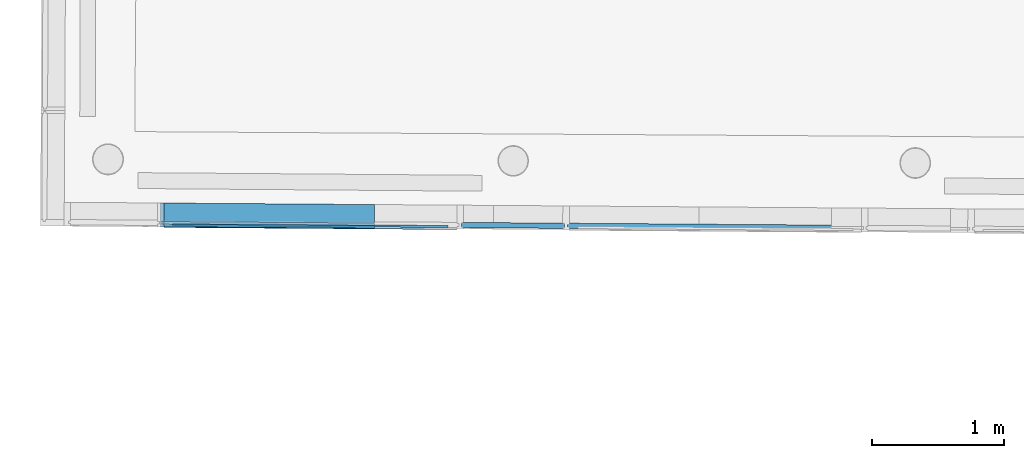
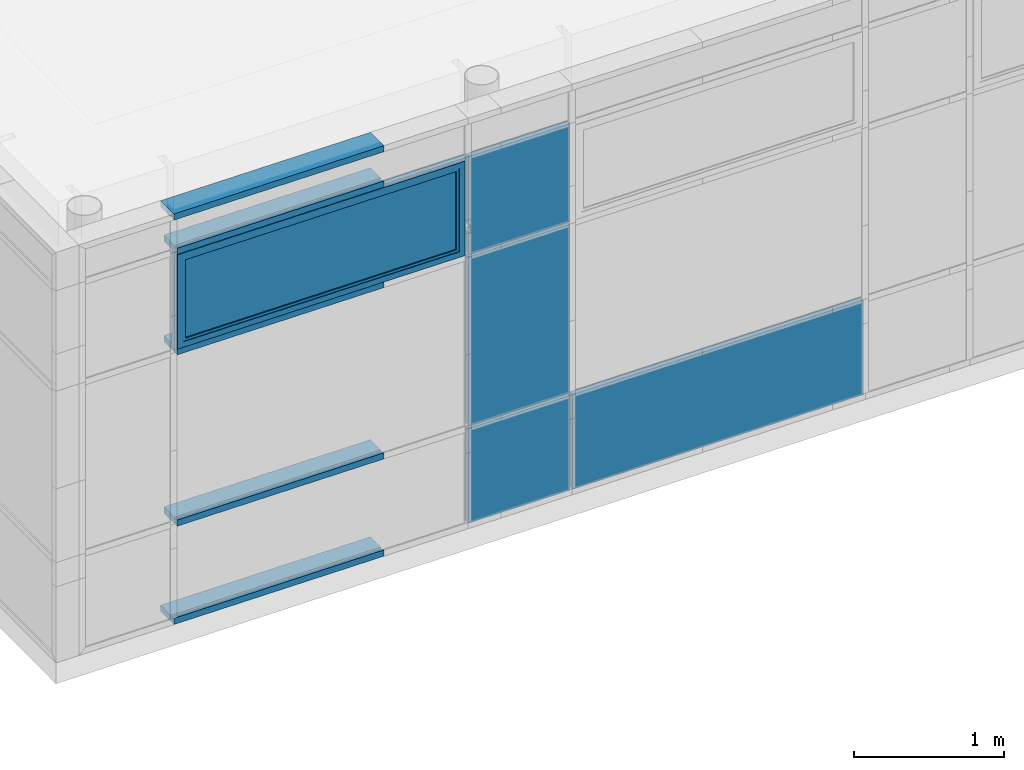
# One storey, part 140 of 196: 11 building element parts, 1 element without a shape of its own.
"""IFC2X3 building model written with IfcOpenShell, lengths in metres."""

from ifc_helpers import new_model, entity, si_unit, converted_unit, derived_unit, money_unit, direction, frame, origin_with_axes, place, context, subcontext, project, spatial, faceted_brep, material, type_object, element, aggregate, save


model = new_model("IFC2X3")

# Units and contexts
model_context = context("Model", 3, precision=1e-05, world=origin_with_axes(), true_north=direction((0.0, 1.0)))
body_context = subcontext(model_context, "Body", "Model", "MODEL_VIEW")
ifc_project = project(units=[si_unit("LENGTHUNIT", "METRE"), si_unit("AREAUNIT", "SQUARE_METRE"), si_unit("VOLUMEUNIT", "CUBIC_METRE"), converted_unit("PLANEANGLEUNIT", "DEGREE", entity("IfcPlaneAngleMeasure", 0.0174532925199), si_unit("PLANEANGLEUNIT", "RADIAN"), dimensions=[0, 0, 0, 0, 0, 0, 0]), money_unit("EUR"), converted_unit("TIMEUNIT", "Year", entity("IfcTimeMeasure", 31556926.0), si_unit("TIMEUNIT", "SECOND"), dimensions=[0, 0, 1, 0, 0, 0, 0]), si_unit("MASSUNIT", "GRAM", prefix="KILO"), si_unit("THERMODYNAMICTEMPERATUREUNIT", "DEGREE_CELSIUS"), si_unit("LUMINOUSINTENSITYUNIT", "LUMEN"), si_unit("ENERGYUNIT", "JOULE", prefix="MEGA"), derived_unit("THERMALCONDUCTANCEUNIT", [(si_unit("POWERUNIT", "WATT"), 1), (si_unit("LENGTHUNIT", "METRE"), -1), (si_unit("THERMODYNAMICTEMPERATUREUNIT", "KELVIN"), -1)]), derived_unit("SPECIFICHEATCAPACITYUNIT", [(si_unit("ENERGYUNIT", "JOULE"), 1), (si_unit("MASSUNIT", "GRAM", prefix="KILO"), -1), (si_unit("THERMODYNAMICTEMPERATUREUNIT", "KELVIN"), -1)]), derived_unit("MASSDENSITYUNIT", [(si_unit("MASSUNIT", "GRAM", prefix="KILO"), 1), (si_unit("VOLUMEUNIT", "CUBIC_METRE"), -1)])], contexts=[model_context])

# Site, building, storey
site_placement = place(None, origin_with_axes())
site = spatial("IfcSite", under=ifc_project, at=site_placement, Name="Gelände", CompositionType="ELEMENT")
building_placement = place(site_placement, origin_with_axes())
building = spatial("IfcBuilding", under=site, at=building_placement, Name="Gebäude", CompositionType="ELEMENT")
storey_placement = place(building_placement, frame((0.0, 0.0, -3.0), z_axis=(0.0, 0.0, 1.0), x_axis=(1.0, 0.0, 0.0)))
storey = spatial("IfcBuildingStorey", under=building, at=storey_placement, Name="KELLERGESCHOSS", CompositionType="ELEMENT", Elevation=-3.0)

# Proxy, building element parts
building_element_proxy_type = type_object("IfcBuildingElementProxyType", Name="Fassadentyp", PredefinedType="NOTDEFINED")
proxy_placement = place(storey_placement, frame((2.54090824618, 35.7894672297, 0.610000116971), z_axis=(0.0, 0.0, 1.0), x_axis=(1.0, 0.0, 0.0)))
proxy = element("IfcBuildingElementProxy", 1, at=proxy_placement, inside=storey, type_object=building_element_proxy_type, Name="Fassade-002")
ifc_material_1 = material(Name="45_Glas, Normalglas")
building_element_part_1_placement = place(proxy_placement, origin_with_axes())
building_element_part_1 = element("IfcBuildingElementPart", 2, at=building_element_part_1_placement, material=ifc_material_1, Name="45_Glas, Normalglas", context=body_context, shape_type="Brep", body=[
    faceted_brep([(0.426614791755, 0.0169092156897, 0.808463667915), (-0.110571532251, 0.0208017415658, 0.808463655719), (-0.110861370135, -0.0191972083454, 0.808463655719), (0.426324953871, -0.0230897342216, 0.808463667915), (0.426614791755, 0.0169092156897, 0.619999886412), (0.426614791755, 0.0169092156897, 0.0349998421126), (-0.110571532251, 0.0208017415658, 0.0349998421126), (-0.352513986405, 0.0225548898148, 0.0349998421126), (-0.352513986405, 0.0225548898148, 0.619999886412), (-0.352513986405, 0.0225548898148, 0.808463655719), (-0.352803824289, -0.0174440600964, 0.808463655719), (-0.352803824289, -0.0174440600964, 0.619999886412), (-0.352803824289, -0.0174440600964, 0.0349998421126), (-0.110861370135, -0.0191972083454, 0.0349998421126), (0.426324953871, -0.0230897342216, 0.0349998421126), (0.426324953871, -0.0230897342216, 0.619999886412)], [[[0, 1, 2, 3]], [[0, 4, 5, 6, 7, 8, 9, 1]], [[1, 9, 10, 2]], [[3, 2, 10, 11, 12, 13, 14, 15]], [[4, 0, 3, 15]], [[5, 4, 15, 14]], [[6, 5, 14, 13]], [[7, 6, 13, 12]], [[8, 7, 12, 11]], [[9, 8, 11, 10]]]),
])
building_element_part_2_placement = place(proxy_placement, origin_with_axes())
building_element_part_2 = element("IfcBuildingElementPart", 3, at=building_element_part_2_placement, material=ifc_material_1, Name="45_Glas, Normalglas", context=body_context, shape_type="Brep", body=[
    faceted_brep([(2.68229939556, 0.000564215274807, 0.808463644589), (2.4393615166, 0.00232457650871, 0.808463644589), (2.43907167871, -0.0376743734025, 0.808463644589), (2.68200955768, -0.0394347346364, 0.808463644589), (2.68229939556, 0.000564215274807, 0.619999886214), (2.68229939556, 0.000564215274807, 0.0349998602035), (2.4393615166, 0.00232457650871, 0.0349998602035), (1.43938775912, 0.0095705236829, 0.0349998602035), (0.44661427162, 0.016764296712, 0.0349998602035), (0.44661427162, 0.016764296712, 0.619999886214), (0.44661427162, 0.016764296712, 0.808463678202), (1.43938775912, 0.0095705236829, 0.808463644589), (1.43909792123, -0.0304284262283, 0.808463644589), (0.446324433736, -0.0232346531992, 0.808463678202), (0.446324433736, -0.0232346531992, 0.619999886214), (0.446324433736, -0.0232346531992, 0.0349998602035), (1.43909792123, -0.0304284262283, 0.0349998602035), (2.43907167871, -0.0376743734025, 0.0349998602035), (2.68200955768, -0.0394347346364, 0.0349998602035), (2.68200955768, -0.0394347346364, 0.619999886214)], [[[0, 1, 2, 3]], [[0, 4, 5, 6, 7, 8, 9, 10, 11, 1]], [[1, 11, 12, 2]], [[3, 2, 12, 13, 14, 15, 16, 17, 18, 19]], [[4, 0, 3, 19]], [[5, 4, 19, 18]], [[6, 5, 18, 17]], [[7, 6, 17, 16]], [[8, 7, 16, 15]], [[9, 8, 15, 14]], [[10, 9, 14, 13]], [[11, 10, 13, 12]]]),
])
building_element_part_3_placement = place(proxy_placement, origin_with_axes())
building_element_part_3 = element("IfcBuildingElementPart", 4, at=building_element_part_3_placement, material=ifc_material_1, Name="45_Glas, Normalglas", context=body_context, shape_type="Brep", body=[
    faceted_brep([(0.426614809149, 0.0169092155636, 2.2064876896), (-0.110571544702, 0.020801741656, 2.2064876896), (-0.110861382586, -0.0191972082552, 2.2064876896), (0.426324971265, -0.0230897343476, 2.2064876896), (0.426614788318, 0.0169092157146, 1.41999988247), (0.426614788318, 0.0169092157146, 0.828463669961), (-0.110571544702, 0.020801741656, 0.828463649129), (-0.352513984, 0.0225548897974, 0.828463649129), (-0.352513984, 0.0225548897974, 1.41999988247), (-0.352513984, 0.0225548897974, 2.2064876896), (-0.352803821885, -0.0174440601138, 2.2064876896), (-0.352803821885, -0.0174440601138, 1.41999988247), (-0.352803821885, -0.0174440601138, 0.828463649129), (-0.110861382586, -0.0191972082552, 0.828463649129), (0.426324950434, -0.0230897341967, 0.828463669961), (0.426324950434, -0.0230897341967, 1.41999988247)], [[[0, 1, 2, 3]], [[0, 4, 5, 6, 7, 8, 9, 1]], [[1, 9, 10, 2]], [[3, 2, 10, 11, 12, 13, 14, 15]], [[4, 0, 3, 15]], [[5, 4, 15, 14]], [[6, 5, 14, 13]], [[7, 6, 13, 12]], [[8, 7, 12, 11]], [[9, 8, 11, 10]]]),
])
building_element_part_4_placement = place(proxy_placement, origin_with_axes())
building_element_part_4 = element("IfcBuildingElementPart", 5, at=building_element_part_4_placement, material=ifc_material_1, Name="45_Glas, Normalglas", context=body_context, shape_type="Brep", body=[
    faceted_brep([(0.426614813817, 0.0169092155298, 3.02649576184), (-0.110571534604, 0.0208017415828, 3.02649576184), (-0.110861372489, -0.0191972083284, 3.02649576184), (0.426324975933, -0.0230897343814, 3.02649576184), (0.426614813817, 0.0169092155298, 2.51999987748), (0.426614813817, 0.0169092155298, 2.22648768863), (-0.110571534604, 0.0208017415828, 2.22648768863), (-0.352513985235, 0.0225548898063, 2.22648768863), (-0.352513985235, 0.0225548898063, 2.40016314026), (-0.339474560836, 0.0224604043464, 2.40016314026), (-0.339474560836, 0.0224604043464, 2.41016314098), (-0.339474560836, 0.0224604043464, 2.45764323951), (-0.339474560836, 0.0224604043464, 2.46764324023), (-0.352513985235, 0.0225548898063, 2.46764324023), (-0.352513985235, 0.0225548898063, 2.5199998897), (-0.352513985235, 0.0225548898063, 3.02649576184), (-0.352803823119, -0.0174440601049, 3.02649576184), (-0.352803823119, -0.0174440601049, 2.5199998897), (-0.352803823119, -0.0174440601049, 2.46764324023), (-0.33976439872, -0.0175385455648, 2.46764324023), (-0.33976439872, -0.0175385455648, 2.45764323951), (-0.33976439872, -0.0175385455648, 2.41016314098), (-0.33976439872, -0.0175385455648, 2.40016314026), (-0.352803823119, -0.0174440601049, 2.40016314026), (-0.352803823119, -0.0174440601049, 2.22648768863), (-0.110861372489, -0.0191972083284, 2.22648768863), (0.426324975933, -0.0230897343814, 2.22648768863), (0.426324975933, -0.0230897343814, 2.51999987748)], [[[0, 1, 2, 3]], [[0, 4, 5, 6, 7, 8, 9, 10, 11, 12, 13, 14, 15, 1]], [[1, 15, 16, 2]], [[3, 2, 16, 17, 18, 19, 20, 21, 22, 23, 24, 25, 26, 27]], [[4, 0, 3, 27]], [[5, 4, 27, 26]], [[6, 5, 26, 25]], [[7, 6, 25, 24]], [[8, 7, 24, 23]], [[9, 8, 23, 22]], [[10, 9, 22, 21]], [[11, 10, 21, 20]], [[12, 11, 20, 19]], [[13, 12, 19, 18]], [[14, 13, 18, 17]], [[15, 14, 17, 16]]]),
])
ifc_material_2 = material(Name="53_Metall, Aluminium")
building_element_part_5_placement = place(proxy_placement, origin_with_axes())
building_element_part_5 = element("IfcBuildingElementPart", 6, at=building_element_part_5_placement, material=ifc_material_2, Name="53_Metall, Aluminium", context=body_context, shape_type="Brep", body=[
    faceted_brep([(-2.59929589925, -0.0111659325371, 2.24148770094), (-0.387875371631, -0.0271901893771, 2.24148770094), (-0.387911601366, -0.032190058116, 2.24148770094), (-2.59933212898, -0.016165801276, 2.24148770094), (-2.5542970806, -0.0114920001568, 2.28648770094), (-0.432874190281, -0.0268641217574, 2.28648770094), (-0.432910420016, -0.0318639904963, 2.28648770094), (-2.55433331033, -0.0164918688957, 2.28648770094)], [[[0, 1, 2, 3]], [[0, 4, 5, 1]], [[1, 5, 6, 2]], [[3, 2, 6, 7]], [[4, 0, 3, 7]], [[5, 4, 7, 6]]]),
    faceted_brep([(-0.387875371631, -0.0271901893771, 2.24148770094), (-0.387875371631, -0.0271901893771, 3.01149577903), (-0.387911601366, -0.032190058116, 3.01149577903), (-0.387911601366, -0.032190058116, 2.24148770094), (-0.432874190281, -0.0268641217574, 2.28648770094), (-0.432874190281, -0.0268641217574, 2.96649577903), (-0.432910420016, -0.0318639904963, 2.96649577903), (-0.432910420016, -0.0318639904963, 2.28648770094)], [[[0, 1, 2, 3]], [[0, 4, 5, 1]], [[1, 5, 6, 2]], [[3, 2, 6, 7]], [[4, 0, 3, 7]], [[5, 4, 7, 6]]]),
    faceted_brep([(-2.59929589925, -0.0111659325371, 3.01149577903), (-2.5542970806, -0.0114920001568, 2.96649577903), (-2.55433331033, -0.0164918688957, 2.96649577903), (-2.59933212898, -0.016165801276, 3.01149577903), (-0.387875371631, -0.0271901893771, 3.01149577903), (-0.432874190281, -0.0268641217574, 2.96649577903), (-0.432910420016, -0.0318639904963, 2.96649577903), (-0.387911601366, -0.032190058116, 3.01149577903)], [[[0, 1, 2, 3]], [[0, 4, 5, 1]], [[1, 5, 6, 2]], [[3, 2, 6, 7]], [[4, 0, 3, 7]], [[5, 4, 7, 6]]]),
    faceted_brep([(-2.59929589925, -0.0111659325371, 2.24148770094), (-2.5542970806, -0.0114920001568, 2.28648770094), (-2.55433331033, -0.0164918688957, 2.28648770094), (-2.59933212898, -0.016165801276, 2.24148770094), (-2.59929589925, -0.0111659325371, 3.01149577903), (-2.5542970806, -0.0114920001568, 2.96649577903), (-2.55433331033, -0.0164918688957, 2.96649577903), (-2.59933212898, -0.016165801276, 3.01149577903)], [[[0, 1, 2, 3]], [[0, 4, 5, 1]], [[1, 5, 6, 2]], [[3, 2, 6, 7]], [[4, 0, 3, 7]], [[5, 4, 7, 6]]]),
    faceted_brep([(-2.59893360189, 0.0388327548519, 2.24148770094), (-0.387513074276, 0.022808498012, 2.24148770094), (-0.387875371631, -0.0271901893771, 2.24148770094), (-2.59929589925, -0.0111659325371, 2.24148770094), (-2.57893412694, 0.0386878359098, 2.26148770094), (-0.407512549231, 0.022953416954, 2.26148770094), (-0.407874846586, -0.027045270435, 2.26148770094), (-2.57929642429, -0.0113108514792, 2.26148770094)], [[[0, 1, 2, 3]], [[0, 4, 5, 1]], [[1, 5, 6, 2]], [[3, 2, 6, 7]], [[4, 0, 3, 7]], [[5, 4, 7, 6]]]),
    faceted_brep([(-0.387513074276, 0.022808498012, 2.24148770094), (-0.387513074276, 0.022808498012, 3.01149577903), (-0.387875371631, -0.0271901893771, 3.01149577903), (-0.387875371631, -0.0271901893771, 2.24148770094), (-0.407512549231, 0.022953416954, 2.26148770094), (-0.407512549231, 0.022953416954, 2.99149577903), (-0.407874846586, -0.027045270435, 2.99149577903), (-0.407874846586, -0.027045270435, 2.26148770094)], [[[0, 1, 2, 3]], [[0, 4, 5, 1]], [[1, 5, 6, 2]], [[3, 2, 6, 7]], [[4, 0, 3, 7]], [[5, 4, 7, 6]]]),
    faceted_brep([(-2.59893360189, 0.0388327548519, 3.01149577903), (-2.57893412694, 0.0386878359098, 2.99149577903), (-2.57929642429, -0.0113108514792, 2.99149577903), (-2.59929589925, -0.0111659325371, 3.01149577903), (-0.387513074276, 0.022808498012, 3.01149577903), (-0.407512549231, 0.022953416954, 2.99149577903), (-0.407874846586, -0.027045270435, 2.99149577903), (-0.387875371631, -0.0271901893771, 3.01149577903)], [[[0, 1, 2, 3]], [[0, 4, 5, 1]], [[1, 5, 6, 2]], [[3, 2, 6, 7]], [[4, 0, 3, 7]], [[5, 4, 7, 6]]]),
    faceted_brep([(-2.59893360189, 0.0388327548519, 2.24148770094), (-2.57893412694, 0.0386878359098, 2.26148770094), (-2.57929642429, -0.0113108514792, 2.26148770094), (-2.59929589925, -0.0111659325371, 2.24148770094), (-2.59893360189, 0.0388327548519, 3.01149577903), (-2.57893412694, 0.0386878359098, 2.99149577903), (-2.57929642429, -0.0113108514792, 2.99149577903), (-2.59929589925, -0.0111659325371, 3.01149577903)], [[[0, 1, 2, 3]], [[0, 4, 5, 1]], [[1, 5, 6, 2]], [[3, 2, 6, 7]], [[4, 0, 3, 7]], [[5, 4, 7, 6]]]),
    faceted_brep([(-2.61393323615, 0.0389414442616, 2.2264876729), (-0.372513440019, 0.0226998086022, 2.2264876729), (-0.372803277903, -0.017299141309, 2.2264876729), (-2.61422307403, -0.00105750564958, 2.2264876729), (-2.59893360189, 0.0388327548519, 2.24148770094), (-0.387513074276, 0.022808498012, 2.24148770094), (-0.38780291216, -0.0171904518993, 2.24148770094), (-2.59922343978, -0.00116619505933, 2.24148770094)], [[[0, 1, 2, 3]], [[0, 4, 5, 1]], [[1, 5, 6, 2]], [[3, 2, 6, 7]], [[4, 0, 3, 7]], [[5, 4, 7, 6]]]),
    faceted_brep([(-0.372513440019, 0.0226998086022, 2.2264876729), (-0.372513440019, 0.0226998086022, 3.02649577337), (-0.372803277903, -0.017299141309, 3.02649577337), (-0.372803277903, -0.017299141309, 2.2264876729), (-0.387513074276, 0.022808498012, 2.24148770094), (-0.387513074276, 0.022808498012, 3.01149577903), (-0.38780291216, -0.0171904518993, 3.01149577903), (-0.38780291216, -0.0171904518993, 2.24148770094)], [[[0, 1, 2, 3]], [[0, 4, 5, 1]], [[1, 5, 6, 2]], [[3, 2, 6, 7]], [[4, 0, 3, 7]], [[5, 4, 7, 6]]]),
    faceted_brep([(-0.372513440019, 0.0226998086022, 3.02649577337), (-2.61393323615, 0.0389414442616, 3.02649577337), (-2.61422307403, -0.00105750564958, 3.02649577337), (-0.372803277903, -0.017299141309, 3.02649577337), (-0.387513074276, 0.022808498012, 3.01149577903), (-2.59893360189, 0.0388327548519, 3.01149577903), (-2.59922343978, -0.00116619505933, 3.01149577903), (-0.38780291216, -0.0171904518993, 3.01149577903)], [[[0, 1, 2, 3]], [[0, 4, 5, 1]], [[1, 5, 6, 2]], [[3, 2, 6, 7]], [[4, 0, 3, 7]], [[5, 4, 7, 6]]]),
    faceted_brep([(-2.61393323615, 0.0389414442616, 3.02649577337), (-2.61393323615, 0.0389414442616, 2.2264876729), (-2.61422307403, -0.00105750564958, 2.2264876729), (-2.61422307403, -0.00105750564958, 3.02649577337), (-2.59893360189, 0.0388327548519, 3.01149577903), (-2.59893360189, 0.0388327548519, 2.24148770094), (-2.59922343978, -0.00116619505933, 2.24148770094), (-2.59922343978, -0.00116619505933, 3.01149577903)], [[[0, 1, 2, 3]], [[0, 4, 5, 1]], [[1, 5, 6, 2]], [[3, 2, 6, 7]], [[4, 0, 3, 7]], [[5, 4, 7, 6]]]),
    faceted_brep([(-2.53429760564, -0.0116369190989, 2.30648770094), (-2.53389907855, 0.0433616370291, 2.30648770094), (-2.53389907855, 0.0433616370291, 2.94649577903), (-2.53429760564, -0.0116369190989, 2.94649577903), (-2.57929642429, -0.0113108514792, 2.26148770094), (-2.5788978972, 0.0436877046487, 2.26148770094), (-2.5788978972, 0.0436877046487, 2.99149577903), (-2.57929642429, -0.0113108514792, 2.99149577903)], [[[0, 1, 2, 3]], [[4, 5, 1, 0]], [[1, 5, 6, 2]], [[3, 2, 6, 7]], [[0, 3, 7, 4]], [[7, 6, 5, 4]]]),
    faceted_brep([(-0.407874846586, -0.027045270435, 2.26148770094), (-0.407476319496, 0.0279532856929, 2.26148770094), (-0.407476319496, 0.0279532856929, 2.99149577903), (-0.407874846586, -0.027045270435, 2.99149577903), (-0.452873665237, -0.0267192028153, 2.30648770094), (-0.452475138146, 0.0282793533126, 2.30648770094), (-0.452475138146, 0.0282793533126, 2.94649577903), (-0.452873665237, -0.0267192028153, 2.94649577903)], [[[0, 1, 2, 3]], [[4, 5, 1, 0]], [[1, 5, 6, 2]], [[3, 2, 6, 7]], [[0, 3, 7, 4]], [[7, 6, 5, 4]]]),
    faceted_brep([(-0.407874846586, -0.027045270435, 2.26148770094), (-0.407476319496, 0.0279532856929, 2.26148770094), (-0.452475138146, 0.0282793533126, 2.30648770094), (-0.452873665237, -0.0267192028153, 2.30648770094), (-2.57929642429, -0.0113108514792, 2.26148770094), (-2.5788978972, 0.0436877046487, 2.26148770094), (-2.53389907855, 0.0433616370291, 2.30648770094), (-2.53429760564, -0.0116369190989, 2.30648770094)], [[[0, 1, 2, 3]], [[4, 5, 1, 0]], [[1, 5, 6, 2]], [[3, 2, 6, 7]], [[0, 3, 7, 4]], [[7, 6, 5, 4]]]),
    faceted_brep([(-2.57929642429, -0.0113108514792, 2.99149577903), (-2.5788978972, 0.0436877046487, 2.99149577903), (-2.53389907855, 0.0433616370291, 2.94649577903), (-2.53429760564, -0.0116369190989, 2.94649577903), (-0.407874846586, -0.027045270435, 2.99149577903), (-0.407476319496, 0.0279532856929, 2.99149577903), (-0.452475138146, 0.0282793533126, 2.94649577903), (-0.452873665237, -0.0267192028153, 2.94649577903)], [[[0, 1, 2, 3]], [[4, 5, 1, 0]], [[1, 5, 6, 2]], [[3, 2, 6, 7]], [[0, 3, 7, 4]], [[7, 6, 5, 4]]]),
])
building_element_part_6_placement = place(proxy_placement, origin_with_axes())
building_element_part_6 = element("IfcBuildingElementPart", 7, at=building_element_part_6_placement, material=ifc_material_1, Name="45_Glas, Normalglas", context=body_context, shape_type="Brep", body=[
    faceted_brep([(-2.53422514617, -0.00163718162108, 2.30648770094), (-2.53410921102, 0.0143623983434, 2.30648770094), (-0.452685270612, -0.000719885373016, 2.30648770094), (-0.452801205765, -0.0167194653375, 2.30648770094), (-2.53422514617, -0.00163718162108, 2.94649577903), (-2.53410921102, 0.0143623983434, 2.94649577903), (-0.452685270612, -0.000719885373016, 2.94649577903), (-0.452801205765, -0.0167194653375, 2.94649577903)], [[[0, 1, 2, 3]], [[4, 5, 1, 0]], [[1, 5, 6, 2]], [[3, 2, 6, 7]], [[0, 3, 7, 4]], [[7, 6, 5, 4]]]),
])
building_element_part_7_placement = place(proxy_placement, origin_with_axes())
building_element_part_7 = element("IfcBuildingElementPart", 8, at=building_element_part_7_placement, material=ifc_material_2, Name="53_Metall, Aluminium", context=body_context, shape_type="Brep", body=[
    faceted_brep([(-1.01062037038, 0.0173233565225, 3.02649576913), (-1.01062037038, 0.0173233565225, 3.01149576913), (-1.00960593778, 0.157319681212, 3.01149576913), (-1.00960593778, 0.157319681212, 3.06149576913), (-1.01062037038, 0.0173233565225, 3.06149576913), (-1.01062037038, 0.0173233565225, 3.04649576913), (-1.01076528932, -0.00267611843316, 3.04649576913), (-1.01076528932, -0.00267611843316, 3.06149576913), (-1.01091020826, -0.0226755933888, 3.06149576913), (-1.01091020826, -0.0226755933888, 3.01149576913), (-1.01076528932, -0.00267611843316, 3.01149576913), (-1.01076528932, -0.00267611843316, 3.02649576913), (-2.5990060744, 0.0288330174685, 3.02649576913), (-2.5990060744, 0.0288330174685, 3.01149576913), (-2.59799164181, 0.168829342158, 3.01149576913), (-2.59799164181, 0.168829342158, 3.06149576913), (-2.5990060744, 0.0288330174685, 3.06149576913), (-2.5990060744, 0.0288330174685, 3.04649576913), (-2.59915099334, 0.00883354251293, 3.04649576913), (-2.59915099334, 0.00883354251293, 3.06149576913), (-2.59929591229, -0.0111659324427, 3.06149576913), (-2.59929591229, -0.0111659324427, 3.01149576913), (-2.59915099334, 0.00883354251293, 3.01149576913), (-2.59915099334, 0.00883354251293, 3.02649576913)], [[[0, 1, 2, 3, 4, 5, 6, 7, 8, 9, 10, 11]], [[1, 0, 12, 13]], [[1, 13, 14, 2]], [[2, 14, 15, 3]], [[4, 3, 15, 16]], [[4, 16, 17, 5]], [[5, 17, 18, 6]], [[7, 6, 18, 19]], [[19, 20, 8, 7]], [[8, 20, 21, 9]], [[22, 10, 9, 21]], [[11, 10, 22, 23]], [[0, 11, 23, 12]], [[23, 22, 21, 20, 19, 18, 17, 16, 15, 14, 13, 12]]]),
])
building_element_part_8_placement = place(proxy_placement, origin_with_axes())
building_element_part_8 = element("IfcBuildingElementPart", 9, at=building_element_part_8_placement, material=ifc_material_2, Name="53_Metall, Aluminium", context=body_context, shape_type="Brep", body=[
    faceted_brep([(-1.01062037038, 0.0173233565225, 0.808463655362), (-1.01062037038, 0.0173233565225, 0.793463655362), (-1.00960593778, 0.157319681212, 0.793463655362), (-1.00960593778, 0.157319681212, 0.843463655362), (-1.01062037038, 0.0173233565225, 0.843463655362), (-1.01062037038, 0.0173233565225, 0.828463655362), (-1.01076528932, -0.00267611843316, 0.828463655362), (-1.01076528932, -0.00267611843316, 0.843463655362), (-1.01091020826, -0.0226755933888, 0.843463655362), (-1.01091020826, -0.0226755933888, 0.793463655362), (-1.01076528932, -0.00267611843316, 0.793463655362), (-1.01076528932, -0.00267611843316, 0.808463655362), (-2.5990060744, 0.0288330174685, 0.808463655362), (-2.5990060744, 0.0288330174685, 0.793463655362), (-2.59799164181, 0.168829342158, 0.793463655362), (-2.59799164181, 0.168829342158, 0.843463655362), (-2.5990060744, 0.0288330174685, 0.843463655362), (-2.5990060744, 0.0288330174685, 0.828463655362), (-2.59915099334, 0.00883354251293, 0.828463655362), (-2.59915099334, 0.00883354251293, 0.843463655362), (-2.59929591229, -0.0111659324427, 0.843463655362), (-2.59929591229, -0.0111659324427, 0.793463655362), (-2.59915099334, 0.00883354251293, 0.793463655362), (-2.59915099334, 0.00883354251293, 0.808463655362)], [[[0, 1, 2, 3, 4, 5, 6, 7, 8, 9, 10, 11]], [[1, 0, 12, 13]], [[1, 13, 14, 2]], [[2, 14, 15, 3]], [[4, 3, 15, 16]], [[4, 16, 17, 5]], [[5, 17, 18, 6]], [[7, 6, 18, 19]], [[19, 20, 8, 7]], [[8, 20, 21, 9]], [[22, 10, 9, 21]], [[11, 10, 22, 23]], [[0, 11, 23, 12]], [[23, 22, 21, 20, 19, 18, 17, 16, 15, 14, 13, 12]]]),
])
building_element_part_9_placement = place(proxy_placement, origin_with_axes())
building_element_part_9 = element("IfcBuildingElementPart", 10, at=building_element_part_9_placement, material=ifc_material_2, Name="53_Metall, Aluminium", context=body_context, shape_type="Brep", body=[
    faceted_brep([(-1.01062037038, 0.0173233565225, 2.20648768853), (-1.01062037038, 0.0173233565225, 2.19148768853), (-1.00960593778, 0.157319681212, 2.19148768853), (-1.00960593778, 0.157319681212, 2.24148768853), (-1.01062037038, 0.0173233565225, 2.24148768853), (-1.01062037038, 0.0173233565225, 2.22648768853), (-1.01076528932, -0.00267611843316, 2.22648768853), (-1.01076528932, -0.00267611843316, 2.24148768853), (-1.01091020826, -0.0226755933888, 2.24148768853), (-1.01091020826, -0.0226755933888, 2.19148768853), (-1.01076528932, -0.00267611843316, 2.19148768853), (-1.01076528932, -0.00267611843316, 2.20648768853), (-2.5990060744, 0.0288330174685, 2.20648768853), (-2.5990060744, 0.0288330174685, 2.19148768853), (-2.59799164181, 0.168829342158, 2.19148768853), (-2.59799164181, 0.168829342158, 2.24148768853), (-2.5990060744, 0.0288330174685, 2.24148768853), (-2.5990060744, 0.0288330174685, 2.22648768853), (-2.59915099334, 0.00883354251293, 2.22648768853), (-2.59915099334, 0.00883354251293, 2.24148768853), (-2.59929591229, -0.0111659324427, 2.24148768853), (-2.59929591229, -0.0111659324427, 2.19148768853), (-2.59915099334, 0.00883354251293, 2.19148768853), (-2.59915099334, 0.00883354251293, 2.20648768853)], [[[0, 1, 2, 3, 4, 5, 6, 7, 8, 9, 10, 11]], [[1, 0, 12, 13]], [[1, 13, 14, 2]], [[2, 14, 15, 3]], [[4, 3, 15, 16]], [[4, 16, 17, 5]], [[5, 17, 18, 6]], [[7, 6, 18, 19]], [[19, 20, 8, 7]], [[8, 20, 21, 9]], [[22, 10, 9, 21]], [[11, 10, 22, 23]], [[0, 11, 23, 12]], [[23, 22, 21, 20, 19, 18, 17, 16, 15, 14, 13, 12]]]),
])
building_element_part_10_placement = place(proxy_placement, origin_with_axes())
building_element_part_10 = element("IfcBuildingElementPart", 11, at=building_element_part_10_placement, material=ifc_material_2, Name="53_Metall, Aluminium", context=body_context, shape_type="Brep", body=[
    faceted_brep([(-1.01062036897, 0.0173233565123, 0.0349999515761), (-1.01076528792, -0.00267611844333, 0.0349999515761), (-1.01076528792, -0.00267611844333, 0.0499999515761), (-1.01091020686, -0.0226755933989, 0.0499999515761), (-1.01091020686, -0.0226755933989, -4.84239381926e-08), (-1.00960593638, 0.157319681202, -4.84239381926e-08), (-1.00960593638, 0.157319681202, 0.0499999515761), (-1.01062036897, 0.0173233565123, 0.0499999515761), (-2.6240054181, 0.0290141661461, 0.0349999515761), (-2.62415033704, 0.00901469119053, 0.0349999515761), (-2.62415033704, 0.00901469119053, 0.0499999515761), (-2.62429525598, -0.0109847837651, 0.0499999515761), (-2.62429525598, -0.0109847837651, -4.84239381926e-08), (-2.6229909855, 0.169010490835, -4.84239381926e-08), (-2.6229909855, 0.169010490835, 0.0499999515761), (-2.6240054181, 0.0290141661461, 0.0499999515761)], [[[0, 1, 2, 3, 4, 5, 6, 7]], [[1, 0, 8, 9]], [[10, 2, 1, 9]], [[2, 10, 11, 3]], [[12, 4, 3, 11]], [[13, 5, 4, 12]], [[14, 6, 5, 13]], [[15, 7, 6, 14]], [[0, 7, 15, 8]], [[8, 15, 14, 13, 12, 11, 10, 9]]]),
])
building_element_part_11_placement = place(proxy_placement, origin_with_axes())
building_element_part_11 = element("IfcBuildingElementPart", 12, at=building_element_part_11_placement, material=ifc_material_2, Name="53_Metall, Aluminium", context=body_context, shape_type="Brep", body=[
    faceted_brep([(-1.01062037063, 0.0173233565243, 3.31499994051), (-1.01062037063, 0.0173233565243, 3.29999994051), (-1.00960593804, 0.157319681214, 3.29999994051), (-1.00960593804, 0.157319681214, 3.34999994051), (-1.01091020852, -0.0226755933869, 3.34999994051), (-1.01091020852, -0.0226755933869, 3.29999994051), (-1.01076528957, -0.00267611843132, 3.29999994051), (-1.01076528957, -0.00267611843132, 3.31499994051), (-2.6240054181, 0.0290141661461, 3.31499994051), (-2.6240054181, 0.0290141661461, 3.29999994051), (-2.6229909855, 0.169010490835, 3.29999994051), (-2.6229909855, 0.169010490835, 3.34999994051), (-2.62429525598, -0.0109847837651, 3.34999994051), (-2.62429525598, -0.0109847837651, 3.29999994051), (-2.62415033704, 0.00901469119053, 3.29999994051), (-2.62415033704, 0.00901469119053, 3.31499994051)], [[[0, 1, 2, 3, 4, 5, 6, 7]], [[0, 8, 9, 1]], [[9, 10, 2, 1]], [[10, 11, 3, 2]], [[11, 12, 4, 3]], [[12, 13, 5, 4]], [[6, 5, 13, 14]], [[14, 15, 7, 6]], [[7, 15, 8, 0]], [[8, 15, 14, 13, 12, 11, 10, 9]]]),
])
aggregate(proxy, [building_element_part_1, building_element_part_2, building_element_part_3, building_element_part_4, building_element_part_5, building_element_part_6, building_element_part_7, building_element_part_8, building_element_part_9, building_element_part_10, building_element_part_11])

save(model, "model.ifc")
